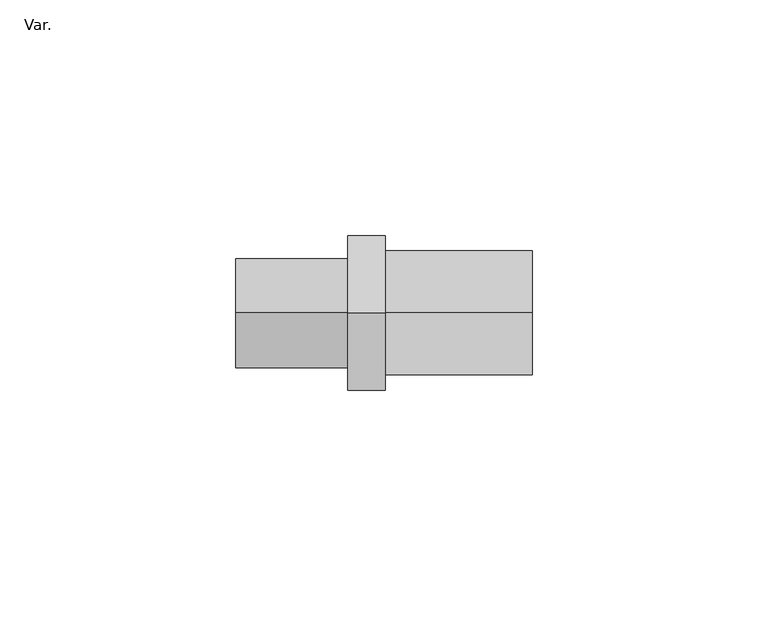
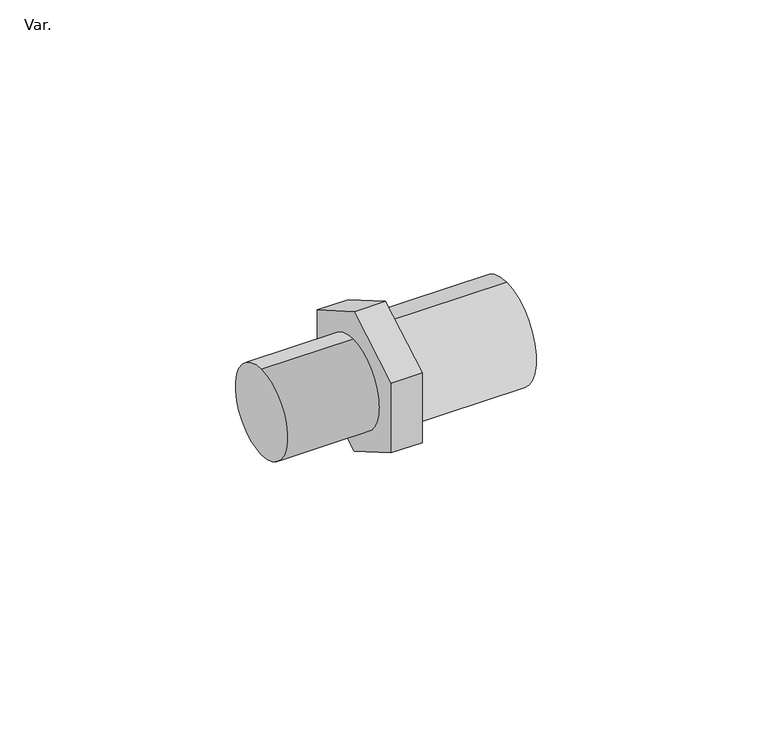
"""IFC4 building model written with IfcOpenShell, lengths in millimetres: pipe fitting geometry, AmancoWavin_ConexõesdeTubos_K5ZNãoUsarRoscaMacho-MachoManifold(nested) : Var.."""

from ifc_helpers import new_model, si_unit, point, frame, origin, origin_2d, place, context, project, spatial, polyline, circle_curve, trimmed, segment, composite_curve, outline, extrude, source, transform, mapped, element, save


def var_805c13c2(model_context):
    return source(origin(), model_context, "Body", "SweptSolid", [
        extrude(outline(composite_curve([segment(trimmed(circle_curve(origin_2d(), 13.25), [point((0.0, 13.25))], [point((0.0, -13.25))], False, "CARTESIAN"), True, "CONTINUOUS"), segment(trimmed(circle_curve(origin_2d(), 13.25), [point((0.0, -13.25))], [point((0.0, 13.25))], False, "CARTESIAN"), True, "CONTINUOUS")], self_intersect=False)), frame((-31.2, 0.0, 0.0), z_axis=(1.0, 0.0, 0.0), x_axis=(0.0, 1.0, 0.0)), (0.0, 0.0, 1.0), 31.2),
        extrude(outline(polyline([(16.4, -9.4685444), (0.0, -18.9370888), (-16.4, -9.4685444), (-16.4, 9.4685444), (0.0, 18.9370888), (16.4, 9.4685444), (16.4, -9.4685444)])), frame((-39.2, 0.0, 0.0), z_axis=(1.0, 0.0, 0.0), x_axis=(0.0, 1.0, 0.0)), (0.0, 0.0, 1.0), 8.0),
        extrude(outline(composite_curve([segment(trimmed(circle_curve(origin_2d(), 11.6), [point((0.0, -11.6))], [point((0.0, 11.6))], False, "CARTESIAN"), True, "CONTINUOUS"), segment(trimmed(circle_curve(origin_2d(), 11.6), [point((0.0, 11.6))], [point((0.0, -11.6))], False, "CARTESIAN"), True, "CONTINUOUS")], self_intersect=False)), frame((-63.0, 0.0, 0.0), z_axis=(1.0, 0.0, 0.0), x_axis=(0.0, 1.0, 0.0)), (0.0, 0.0, 1.0), 23.8),
    ])


if __name__ == "__main__":
    model = new_model("IFC4")
    model_context = context("Model", 3, world=origin())
    ifc_project = project(units=[si_unit("LENGTHUNIT", "METRE", prefix="MILLI")], contexts=[model_context])
    site = spatial("IfcSite", under=ifc_project)
    building = spatial("IfcBuilding", under=site)
    placement = place(None, origin())
    var_shape = var_805c13c2(model_context)
    element("IfcPipeFitting", 1, ObjectType="AmancoWavin_ConexõesdeTubos_K5ZNãoUsarRoscaMacho-MachoManifold(nested) : Var.", at=placement, inside=building, context=model_context, shape_type="MappedRepresentation", body=[
        mapped(var_shape, transform((0.0, 0.0, 0.0), x_axis=(1.0, 0.0, 0.0), y_axis=(0.0, 1.0, 0.0), z_axis=(0.0, 0.0, 1.0))),
    ])
    save(model, "model.ifc")
